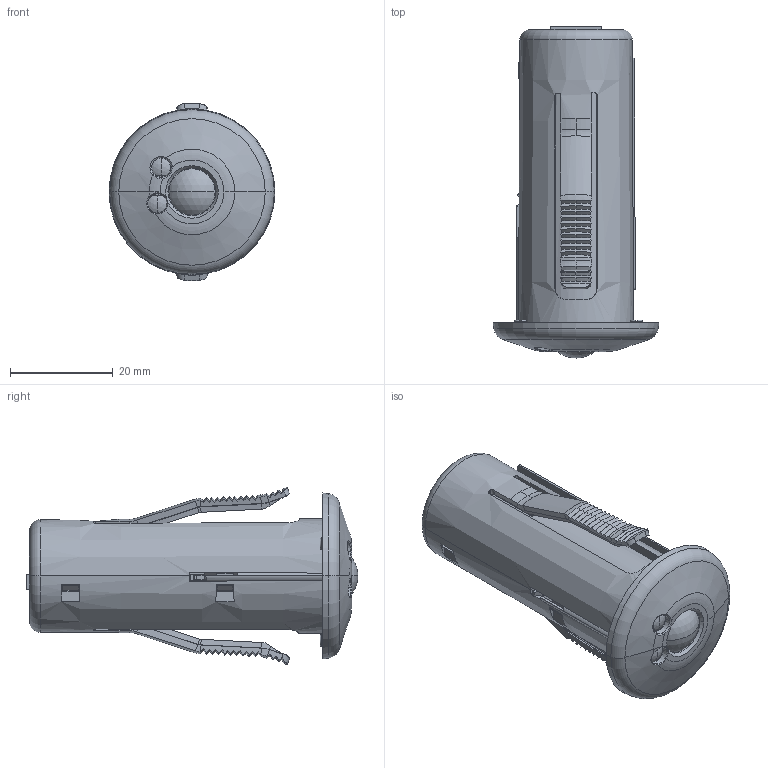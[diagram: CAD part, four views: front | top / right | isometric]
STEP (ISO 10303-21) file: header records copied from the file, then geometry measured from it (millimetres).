
FILE_DESCRIPTION (( 'STEP AP214' ), '1' );
FILE_NAME ('BAB1032-M01.STEP', '2017-03-22T18:37:16', ( 'LEVADMIN' ), ( 'LEVITON' ), 'SwSTEP 2.0', 'SolidWorks 2015', '' );
FILE_SCHEMA (( 'AUTOMOTIVE_DESIGN' ));
Length unit declared in the file: millimetre
Products named in the file (50): SOT3636_0XA0132890008; CC0402_0X83475103610; BAB1029-M01; SO6P65X2_0XA4302890008; cc0402_0XA8654270008; BAB1030-M01; SOT235_8XA5367890000; CC0402_0XA8654160008; SOT3636EBC_8XA5506890000; CC0402_0XA3865001000; BAB1032-M01; SOY4P170X140_0XA9938890000; CC0402_8XA7579510201; SODL6_LRTB_8XA6028890000; CC0402_0XA3865200002; TPC100_ARTTP; CC0402_8XA7041104553; STSW4_ESE18_0XB1194890000; CC0402_8XA7041560741; SQ49P50X685_0XB1240890000; CC0402_8XA7579000005; TP075C125_ARTTP; CC0603_0XB1168474442; SO9P50X3_0XB1241890000; CC0603_0X74603225010; cc3216p_0XA9935890000; CC0603_0X74868750001; OXB3222-M01; SO9P65X3_TMP2073; CC0603_0X74868100000; OXB2917-M01; JL4P2B6X12_0XB1046040103; CC0603_0X74868010000; ORA7704-M01; SO6P65X180_0XA9933890000; CC0603_0XB1168105642; ORB0928-M01; CC0603W_8XA3801002710; cc0603_0X74868511003; MFID1_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
Assembly tree (128 placements, depth 3):
  BAB1032-M01
    BAB1030-M01
    BAB1029-M01
    OXB1229-D01
    BAB1031-M01
    OXB1471-D01  x2
    ORB0928-M01
      OXB0928-M04
      CC0603W_8XA3801002710
      SO6P65X180_0XA9933890000
      JL4P2B6X12_0XB1046040103
      SO9P65X3_TMP2073
      cc3216p_0XA9935890000
      SO9P50X3_0XB1241890000
      TP075C125_ARTTP  x3
      SQ49P50X685_0XB1240890000
      STSW4_ESE18_0XB1194890000
      TPC100_ARTTP  x28
      SODL6_LRTB_8XA6028890000
      SOY4P170X140_0XA9938890000
      SOT3636EBC_8XA5506890000  x2
      SOT235_8XA5367890000
      SO6P65X2_0XA4302890008
      SOT3636_0XA0132890008  x2
      SOT363AKC_0X81642890008  x2
      CC0805_0X83416106410  x3
      CC0603_0X74604047105  x2
      cc0603_0X74868511003
      CC0603_0XB1168105642  x2
      CC0603_0X74868010000  x2
      CC0603_0X74868100000  x3
      CC0603_0X74868750001  x3
      CC0603_0X74603225010
      CC0603_0XB1168474442
      CC0402_8XA7579000005  x3
      CC0402_8XA7041560741  x5
      CC0402_8XA7041104553  x9
      CC0402_0XA3865200002  x4
      CC0402_8XA7579510201  x6
      CC0402_0XA3865001000
      CC0402_0XA8654160008
      cc0402_0XA8654270008  x2
      CC0402_0X83475103610  x9
      CC0402_0XA9937100422  x3
      CC0402_0XA9937180422
      CC0402_8XA7041100745  x4
      MFID1_
    ORA7704-M01
    OXB2917-M01
    OXB3222-M01  x2
Bounding box: 32.26 x 64.52 x 34.5 mm (x, y, z)
Volume: 11369.4 mm3; surface area: 22956.6 mm2
Topology: 164 solids, 164 shells, 3796 faces, 9812 edges, 6398 vertices
Faces by surface type: plane 2180, cylinder 1257, cone 194, torus 97, bspline 42, sphere 26
Entity records: 117005 total; most frequent: CARTESIAN_POINT 22392, ORIENTED_EDGE 15308, DIRECTION 14930, EDGE_CURVE 7654, AXIS2_PLACEMENT_3D 5162, VERTEX_POINT 4966, LINE 4606, VECTOR 4606
